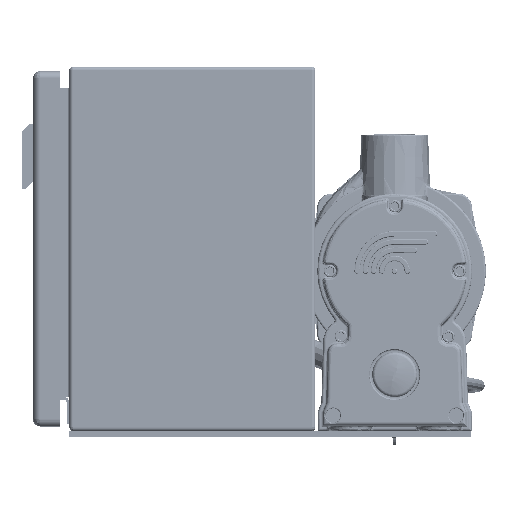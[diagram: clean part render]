
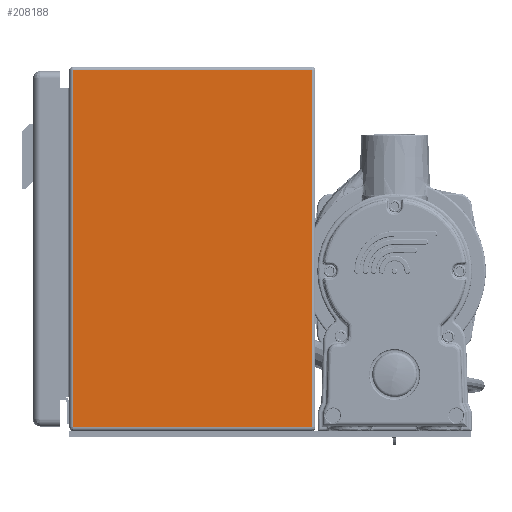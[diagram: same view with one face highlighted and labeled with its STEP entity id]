
A CAD part, left-side view. The second image highlights one B-rep face of the part: STEP entity #208188.
In plain terms, the highlighted planar face has unit normal (-1, 0, 0) as drawn and (0, 1, 0) by its records, which use the part's own axes.
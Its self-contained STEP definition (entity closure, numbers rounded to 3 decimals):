
#5319 = CARTESIAN_POINT ( 'NONE',  ( 97.95, 300., -75.45 ) ) ;
#14501 = CARTESIAN_POINT ( 'NONE',  ( -97.95, 300., 55.45 ) ) ;
#15395 = ORIENTED_EDGE ( 'NONE', *, *, #50563, .F. ) ;
#32720 = CARTESIAN_POINT ( 'NONE',  ( 97.95, 300., 55.45 ) ) ;
#41026 = PLANE ( 'NONE',  #43452 ) ;
#43452 = AXIS2_PLACEMENT_3D ( 'NONE', #5319, #318044, #282325 ) ;
#50563 = EDGE_CURVE ( 'NONE', #131573, #293498, #68396, .T. ) ;
#51508 = DIRECTION ( 'NONE',  ( 1., 0., 0. ) ) ;
#59106 = EDGE_CURVE ( 'NONE', #227096, #273674, #122946, .T. ) ;
#68396 = LINE ( 'NONE', #32720, #327128 ) ;
#84802 = ORIENTED_EDGE ( 'NONE', *, *, #59106, .F. ) ;
#87232 = CARTESIAN_POINT ( 'NONE',  ( 97.95, 300., -75.45 ) ) ;
#94944 = VECTOR ( 'NONE', #114573, 1000. ) ;
#114573 = DIRECTION ( 'NONE',  ( 0., 0., -1. ) ) ;
#117187 = CARTESIAN_POINT ( 'NONE',  ( 97.95, 300., -75.45 ) ) ;
#122946 = LINE ( 'NONE', #87232, #146879 ) ;
#131573 = VERTEX_POINT ( 'NONE', #222207 ) ;
#139298 = EDGE_LOOP ( 'NONE', ( #240836, #84802, #251346, #15395 ) ) ;
#146879 = VECTOR ( 'NONE', #51508, 1000. ) ;
#150265 = CARTESIAN_POINT ( 'NONE',  ( -97.95, 300., -10. ) ) ;
#150755 = CARTESIAN_POINT ( 'NONE',  ( -97.95, 300., -75.45 ) ) ;
#163330 = DIRECTION ( 'NONE',  ( 0., 0., 1. ) ) ;
#169611 = EDGE_CURVE ( 'NONE', #293498, #227096, #185884, .T. ) ;
#185884 = LINE ( 'NONE', #150265, #94944 ) ;
#199035 = CARTESIAN_POINT ( 'NONE',  ( 97.95, 300., -10. ) ) ;
#208188 = ADVANCED_FACE ( 'NONE', ( #283886 ), #41026, .T. ) ;
#220803 = EDGE_CURVE ( 'NONE', #273674, #131573, #234677, .T. ) ;
#222207 = CARTESIAN_POINT ( 'NONE',  ( 97.95, 300., 55.45 ) ) ;
#227096 = VERTEX_POINT ( 'NONE', #150755 ) ;
#234677 = LINE ( 'NONE', #199035, #331976 ) ;
#240836 = ORIENTED_EDGE ( 'NONE', *, *, #220803, .F. ) ;
#251346 = ORIENTED_EDGE ( 'NONE', *, *, #169611, .F. ) ;
#273674 = VERTEX_POINT ( 'NONE', #117187 ) ;
#282325 = DIRECTION ( 'NONE',  ( 0., 0., 1. ) ) ;
#283886 = FACE_OUTER_BOUND ( 'NONE', #139298, .T. ) ;
#293498 = VERTEX_POINT ( 'NONE', #14501 ) ;
#318044 = DIRECTION ( 'NONE',  ( 0., 1., 0. ) ) ;
#327128 = VECTOR ( 'NONE', #345424, 1000. ) ;
#331976 = VECTOR ( 'NONE', #163330, 1000. ) ;
#345424 = DIRECTION ( 'NONE',  ( -1., 0., 0. ) ) ;
